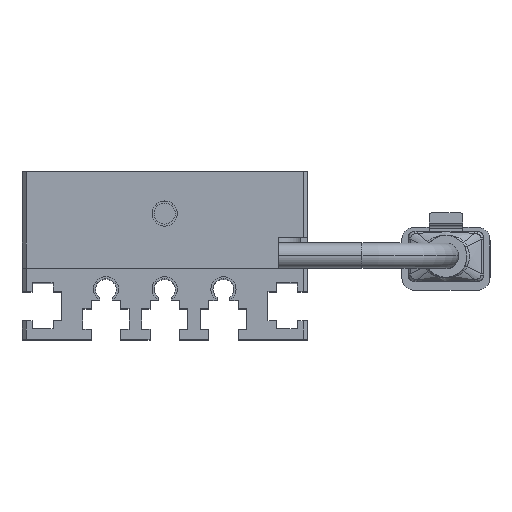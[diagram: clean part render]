
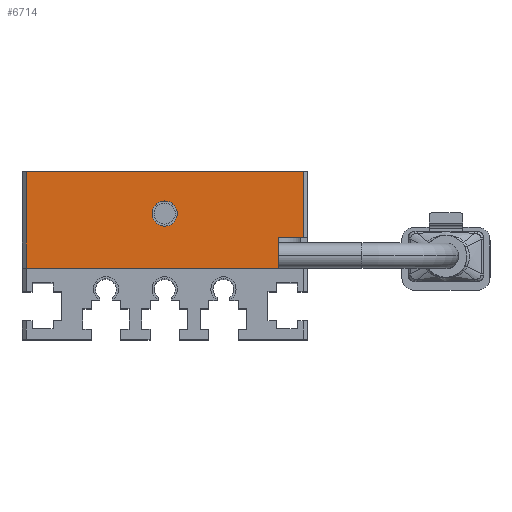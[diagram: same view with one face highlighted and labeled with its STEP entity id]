
A CAD part, top view. The second image highlights one B-rep face of the part: STEP entity #6714.
In plain terms, the highlighted planar face has unit normal (0, 0, 1) as drawn and (0, 0, -1) by its records, which use the part's own axes.
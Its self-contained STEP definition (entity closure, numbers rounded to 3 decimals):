
#174 = ORIENTED_EDGE ( 'NONE', *, *, #11788, .F. ) ;
#176 = ORIENTED_EDGE ( 'NONE', *, *, #1818, .T. ) ;
#656 = DIRECTION ( 'NONE',  ( 0., 0., -1. ) ) ;
#751 = VECTOR ( 'NONE', #2754, 1000. ) ;
#1160 = CARTESIAN_POINT ( 'NONE',  ( -16.5, 11.5, 0. ) ) ;
#1242 = DIRECTION ( 'NONE',  ( 0., 1., 0. ) ) ;
#1616 = ORIENTED_EDGE ( 'NONE', *, *, #2087, .F. ) ;
#1818 = EDGE_CURVE ( 'NONE', #13930, #11521, #3590, .T. ) ;
#2087 = EDGE_CURVE ( 'NONE', #4385, #10405, #10579, .T. ) ;
#2137 = DIRECTION ( 'NONE',  ( 0., -1., 0. ) ) ;
#2375 = DIRECTION ( 'NONE',  ( -1., 0., 0. ) ) ;
#2754 = DIRECTION ( 'NONE',  ( 1., 0., 0. ) ) ;
#3217 = FACE_BOUND ( 'NONE', #6252, .T. ) ;
#3590 = LINE ( 'NONE', #1160, #8134 ) ;
#3647 = AXIS2_PLACEMENT_3D ( 'NONE', #13317, #11352, #9927 ) ;
#3798 = CARTESIAN_POINT ( 'NONE',  ( 16.5, 0., 0. ) ) ;
#4287 = CARTESIAN_POINT ( 'NONE',  ( -17., 11.5, 0. ) ) ;
#4385 = VERTEX_POINT ( 'NONE', #11623 ) ;
#4474 = CARTESIAN_POINT ( 'NONE',  ( -16.5, 11.5, 0. ) ) ;
#4614 = ORIENTED_EDGE ( 'NONE', *, *, #6107, .T. ) ;
#4764 = VECTOR ( 'NONE', #4858, 1000. ) ;
#4858 = DIRECTION ( 'NONE',  ( 0., -1., 0. ) ) ;
#5806 = CARTESIAN_POINT ( 'NONE',  ( 16.5, 11.5, 0. ) ) ;
#5844 = CARTESIAN_POINT ( 'NONE',  ( 1.5, 6.5, 0. ) ) ;
#6107 = EDGE_CURVE ( 'NONE', #8338, #9703, #10145, .T. ) ;
#6252 = EDGE_LOOP ( 'NONE', ( #174, #9117 ) ) ;
#6714 = ADVANCED_FACE ( 'NONE', ( #8664, #3217 ), #7677, .T. ) ;
#7283 = VERTEX_POINT ( 'NONE', #5844 ) ;
#7677 = PLANE ( 'NONE',  #12824 ) ;
#7815 = VECTOR ( 'NONE', #14844, 1000. ) ;
#8134 = VECTOR ( 'NONE', #1242, 1000. ) ;
#8141 = CARTESIAN_POINT ( 'NONE',  ( -16.5, 3.6, 0. ) ) ;
#8187 = ORIENTED_EDGE ( 'NONE', *, *, #9935, .F. ) ;
#8265 = CARTESIAN_POINT ( 'NONE',  ( 0., 6.5, 0. ) ) ;
#8292 = ORIENTED_EDGE ( 'NONE', *, *, #10755, .F. ) ;
#8338 = VERTEX_POINT ( 'NONE', #5806 ) ;
#8574 = LINE ( 'NONE', #14380, #10482 ) ;
#8664 = FACE_OUTER_BOUND ( 'NONE', #11747, .T. ) ;
#8886 = DIRECTION ( 'NONE',  ( -1., 0., 0. ) ) ;
#9013 = AXIS2_PLACEMENT_3D ( 'NONE', #8265, #13841, #2375 ) ;
#9017 = CARTESIAN_POINT ( 'NONE',  ( 16.5, 0., 0. ) ) ;
#9112 = LINE ( 'NONE', #10247, #7815 ) ;
#9117 = ORIENTED_EDGE ( 'NONE', *, *, #10040, .F. ) ;
#9305 = CARTESIAN_POINT ( 'NONE',  ( -13.5, 3., 0. ) ) ;
#9703 = VERTEX_POINT ( 'NONE', #3798 ) ;
#9712 = DIRECTION ( 'NONE',  ( 1., 0., 0. ) ) ;
#9927 = DIRECTION ( 'NONE',  ( -1., 0., 0. ) ) ;
#9935 = EDGE_CURVE ( 'NONE', #10405, #9703, #12940, .T. ) ;
#10040 = EDGE_CURVE ( 'NONE', #7283, #14049, #14242, .T. ) ;
#10145 = LINE ( 'NONE', #9017, #10344 ) ;
#10247 = CARTESIAN_POINT ( 'NONE',  ( -17., 11.5, 0. ) ) ;
#10344 = VECTOR ( 'NONE', #2137, 1000. ) ;
#10405 = VERTEX_POINT ( 'NONE', #12651 ) ;
#10482 = VECTOR ( 'NONE', #9712, 1000. ) ;
#10579 = LINE ( 'NONE', #9305, #4764 ) ;
#10755 = EDGE_CURVE ( 'NONE', #8338, #11521, #9112, .T. ) ;
#10980 = EDGE_CURVE ( 'NONE', #13930, #4385, #8574, .T. ) ;
#11352 = DIRECTION ( 'NONE',  ( 0., 0., -1. ) ) ;
#11521 = VERTEX_POINT ( 'NONE', #4474 ) ;
#11623 = CARTESIAN_POINT ( 'NONE',  ( -13.5, 3.6, 0. ) ) ;
#11747 = EDGE_LOOP ( 'NONE', ( #1616, #12476, #176, #8292, #4614, #8187 ) ) ;
#11788 = EDGE_CURVE ( 'NONE', #14049, #7283, #14545, .T. ) ;
#11811 = CARTESIAN_POINT ( 'NONE',  ( -17., 0., 0. ) ) ;
#12201 = CARTESIAN_POINT ( 'NONE',  ( -1.5, 6.5, 0. ) ) ;
#12476 = ORIENTED_EDGE ( 'NONE', *, *, #10980, .F. ) ;
#12651 = CARTESIAN_POINT ( 'NONE',  ( -13.5, 0., 0. ) ) ;
#12824 = AXIS2_PLACEMENT_3D ( 'NONE', #4287, #656, #8886 ) ;
#12940 = LINE ( 'NONE', #11811, #751 ) ;
#13317 = CARTESIAN_POINT ( 'NONE',  ( 0., 6.5, 0. ) ) ;
#13841 = DIRECTION ( 'NONE',  ( 0., 0., -1. ) ) ;
#13930 = VERTEX_POINT ( 'NONE', #8141 ) ;
#14049 = VERTEX_POINT ( 'NONE', #12201 ) ;
#14242 = CIRCLE ( 'NONE', #3647, 1.5 ) ;
#14380 = CARTESIAN_POINT ( 'NONE',  ( -16.5, 3.6, 0. ) ) ;
#14545 = CIRCLE ( 'NONE', #9013, 1.5 ) ;
#14844 = DIRECTION ( 'NONE',  ( -1., 0., 0. ) ) ;
